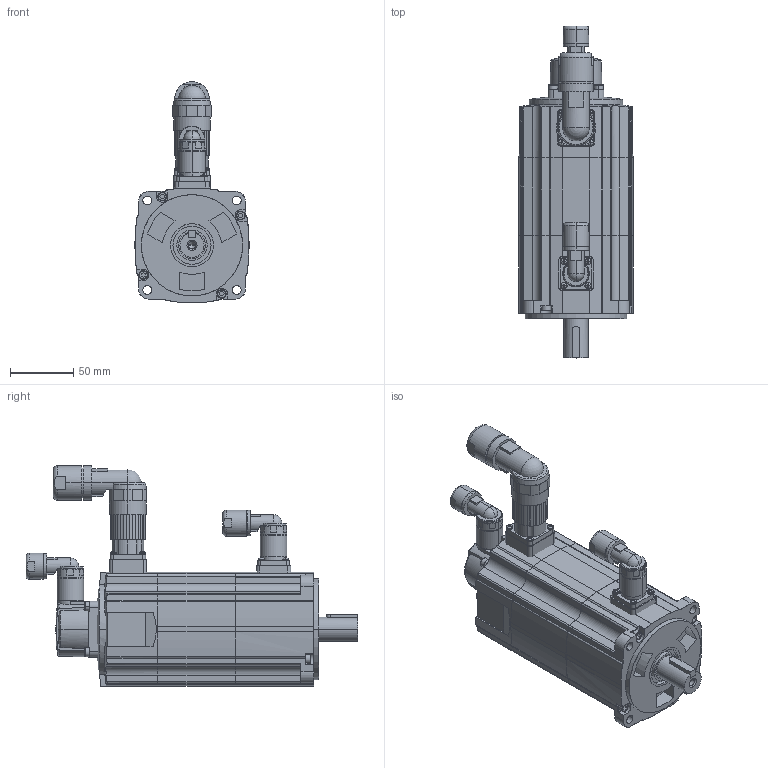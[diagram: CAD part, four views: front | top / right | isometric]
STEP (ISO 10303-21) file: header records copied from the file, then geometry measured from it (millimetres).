
FILE_DESCRIPTION(('no description'),'unknown implementation level');
FILE_NAME('1FL6042-1AF61-0LB1_3D_325ddc68619e16eca2ed960911b72d32.STP',' ',('SIEMENS A&D'),('CADClick - KiM GmbH - www.kimweb.de'),'unknown preprocess','ACIS','unknown authorization');
FILE_SCHEMA(('automotive_design'));
Length unit declared in the file: millimetre
Products named in the file (51): 1; 2; 3; 4; 5; 6; 7; 8; 9; 10; 11; 12; 13; 14; 15; 16; 17; 18; 19; 20; 21; 22; 23; 24; 25; 26; 27; 28; 29; 30; 31; 32; 33; 34; 35; 36; 37; 38; 39; 40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
Bounding box: 90 x 261.8 x 174 mm (x, y, z)
Volume: 1167527.3 mm3; surface area: 234300.7 mm2
Topology: 51 solids, 51 shells, 1563 faces, 4105 edges, 2695 vertices
Faces by surface type: plane 840, cylinder 558, torus 153, sphere 6, cone 6
Entity records: 99277 total; most frequent: CARTESIAN_POINT 12184, DIRECTION 8435, STYLED_ITEM 8406, PRESENTATION_STYLE_ASSIGNMENT 8406, COLOUR_RGB 8406, ORIENTED_EDGE 8194, EDGE_CURVE 4097, CURVE_STYLE 4097
